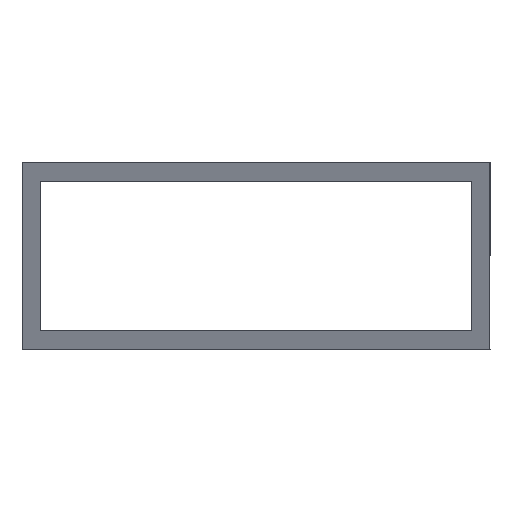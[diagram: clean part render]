
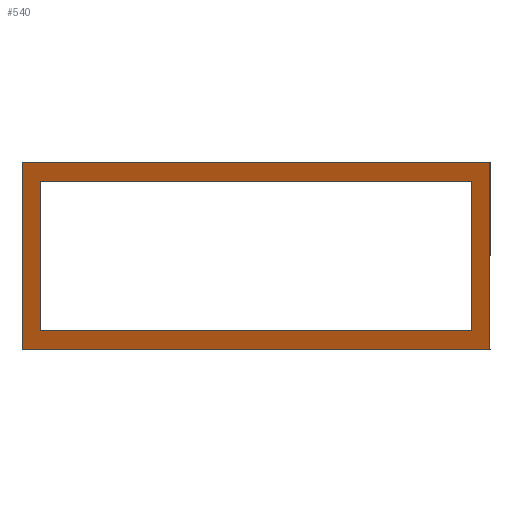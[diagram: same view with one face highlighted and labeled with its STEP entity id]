
A CAD part, left-side view. The second image highlights one B-rep face of the part: STEP entity #540.
In plain terms, the highlighted planar face has unit normal (-0.943, 0, -0.334).
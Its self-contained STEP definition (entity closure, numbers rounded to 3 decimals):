
#278=ORIENTED_EDGE('',*,*,#384,.T.);
#279=ORIENTED_EDGE('',*,*,#375,.T.);
#280=ORIENTED_EDGE('',*,*,#379,.T.);
#281=ORIENTED_EDGE('',*,*,#382,.T.);
#282=ORIENTED_EDGE('',*,*,#386,.T.);
#283=ORIENTED_EDGE('',*,*,#387,.T.);
#284=ORIENTED_EDGE('',*,*,#388,.T.);
#285=ORIENTED_EDGE('',*,*,#389,.T.);
#311=VECTOR('',#425,1.);
#315=VECTOR('',#431,1.);
#318=VECTOR('',#436,1.);
#320=VECTOR('',#440,1.);
#322=VECTOR('',#444,1.);
#323=VECTOR('',#445,1.);
#324=VECTOR('',#446,1.);
#325=VECTOR('',#447,1.);
#335=LINE('',#471,#311);
#339=LINE('',#479,#315);
#342=LINE('',#485,#318);
#344=LINE('',#488,#320);
#346=LINE('',#493,#322);
#347=LINE('',#495,#323);
#348=LINE('',#497,#324);
#349=LINE('',#498,#325);
#359=VERTEX_POINT('',#468);
#360=VERTEX_POINT('',#470);
#363=VERTEX_POINT('',#477);
#365=VERTEX_POINT('',#483);
#366=VERTEX_POINT('',#491);
#367=VERTEX_POINT('',#492);
#368=VERTEX_POINT('',#494);
#369=VERTEX_POINT('',#496);
#375=EDGE_CURVE('',#360,#359,#335,.T.);
#379=EDGE_CURVE('',#359,#363,#339,.T.);
#382=EDGE_CURVE('',#363,#365,#342,.T.);
#384=EDGE_CURVE('',#365,#360,#344,.T.);
#386=EDGE_CURVE('',#366,#367,#346,.T.);
#387=EDGE_CURVE('',#367,#368,#347,.T.);
#388=EDGE_CURVE('',#368,#369,#348,.T.);
#389=EDGE_CURVE('',#369,#366,#349,.T.);
#402=EDGE_LOOP('',(#278,#279,#280,#281));
#403=EDGE_LOOP('',(#282,#283,#284,#285));
#414=FACE_BOUND('',#402,.T.);
#415=FACE_BOUND('',#403,.T.);
#425=DIRECTION('',(-7.082,0.,20.));
#431=DIRECTION('',(0.,50.,0.));
#436=DIRECTION('',(7.082,0.,-20.));
#440=DIRECTION('',(0.,-50.,0.));
#442=DIRECTION('',(-0.943,0.,-0.334));
#443=DIRECTION('',(0.,0.943,0.));
#444=DIRECTION('',(5.666,0.,-16.));
#445=DIRECTION('',(0.,46.,0.));
#446=DIRECTION('',(-5.666,0.,16.));
#447=DIRECTION('',(0.,-46.,0.));
#468=CARTESIAN_POINT('',(26.979,0.,20.));
#470=CARTESIAN_POINT('',(34.061,0.,0.));
#471=CARTESIAN_POINT('',(34.061,0.,0.));
#477=CARTESIAN_POINT('',(26.979,50.,20.));
#479=CARTESIAN_POINT('',(26.979,0.,20.));
#483=CARTESIAN_POINT('',(34.061,50.,0.));
#485=CARTESIAN_POINT('',(26.979,50.,20.));
#488=CARTESIAN_POINT('',(34.061,50.,0.));
#490=CARTESIAN_POINT('',(34.061,50.,0.));
#491=CARTESIAN_POINT('',(27.687,2.,18.));
#492=CARTESIAN_POINT('',(33.353,2.,2.));
#493=CARTESIAN_POINT('',(27.687,2.,18.));
#494=CARTESIAN_POINT('',(33.353,48.,2.));
#495=CARTESIAN_POINT('',(33.353,2.,2.));
#496=CARTESIAN_POINT('',(27.687,48.,18.));
#497=CARTESIAN_POINT('',(33.353,48.,2.));
#498=CARTESIAN_POINT('',(27.687,48.,18.));
#520=AXIS2_PLACEMENT_3D('',#490,#442,#443);
#530=PLANE('',#520);
#540=ADVANCED_FACE('',(#414,#415),#530,.T.);
